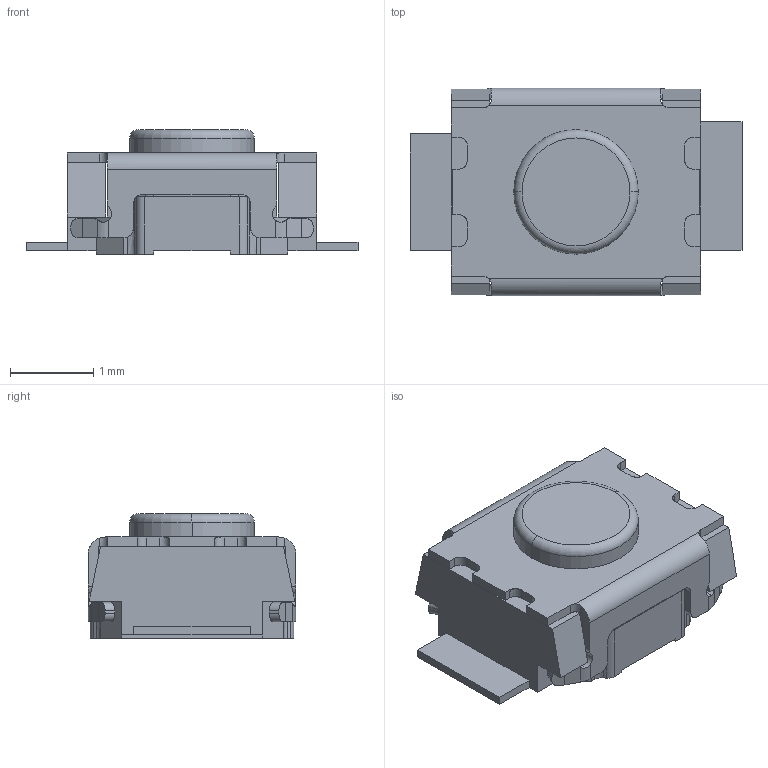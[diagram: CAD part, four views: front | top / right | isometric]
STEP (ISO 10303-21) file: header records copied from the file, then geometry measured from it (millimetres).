
FILE_DESCRIPTION((''),'2;1');
FILE_NAME('JQA2530A-B0151-BEG-1-405_ASM','2026-04-11T16:33:09',('Admin'),(''),'CREO PARAMETRIC BY PTC INC, 2019224','CREO PARAMETRIC BY PTC INC, 2019224','');
FILE_SCHEMA(('AUTOMOTIVE_DESIGN { 1 0 10303 214 1 1 1 1 }'));
Length unit declared in the file: millimetre
Products named in the file (3): JQA2530A-B0151-BEG-1-405_01; JQA2530A-B0151-BEG-1-405_02; JQA2530A-B0151-BEG-1-405_ASM
Assembly tree (2 placements, depth 2):
  JQA2530A-B0151-BEG-1-405_ASM
    JQA2530A-B0151-BEG-1-405_01
    JQA2530A-B0151-BEG-1-405_02
Bounding box: 4 x 2.5 x 1.5 mm (x, y, z)
Volume: 8.6 mm3; surface area: 58.5 mm2
Topology: 6 solids, 6 shells, 312 faces, 881 edges, 584 vertices
Faces by surface type: plane 178, extrusion 130, cylinder 2, torus 2
Entity records: 12728 total; most frequent: CARTESIAN_POINT 2940, ORIENTED_EDGE 1758, DIRECTION 1386, EDGE_CURVE 879, VECTOR 730, LINE 600, VERTEX_POINT 580, PRESENTATION_STYLE_ASSIGNMENT 527
